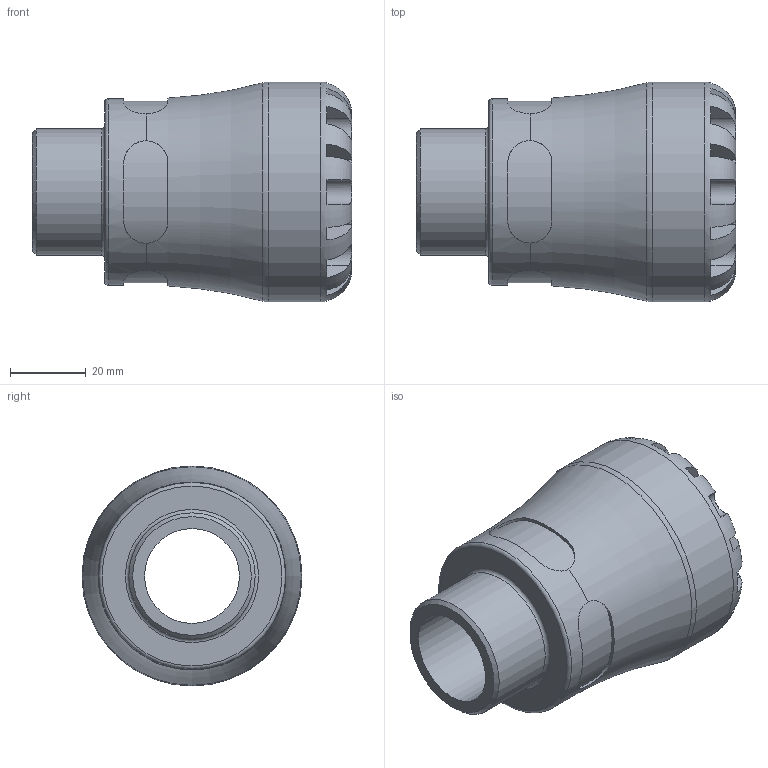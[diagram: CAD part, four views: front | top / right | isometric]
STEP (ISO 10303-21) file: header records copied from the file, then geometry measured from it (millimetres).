
FILE_DESCRIPTION(/* description */ ('PLASSON MALE ADAPTOR 1''''IPS x 1''''NPT SERIES 1'),/* implementation_level */ '2;1');
FILE_NAME(/* name */ 'C:\Dropbox\KIMPROJECTS-Inventor 2019\99-16-3568-Processing Inch\ASTM S1 2021\1002A\stp\1002A6T010010.stp',/* time_stamp */ '2021-09-02T14:34:27+03:00',/* author */ ('KIM'),/* organization */ (''),/* preprocessor_version */ 'ST-DEVELOPER v17.2',/* originating_system */ 'Autodesk Inventor 2019',/* authorisation */ '');
FILE_SCHEMA (('AUTOMOTIVE_DESIGN { 1 0 10303 214 3 1 1 }'));
Length unit declared in the file: inch
Products named in the file (1): 1002A6T010010
Bounding box: 84.07 x 57.91 x 57.91 mm (x, y, z)
Volume: 96634.4 mm3; surface area: 25173.7 mm2
Topology: 1 solids, 1 shells, 100 faces, 273 edges, 177 vertices
Faces by surface type: plane 60, cylinder 33, torus 5, cone 2
Full cylindrical faces by diameter (mm): 24.975 x1, 33.249 x1, 33.3 x1, 49.225 x1, 57.912 x1
Entity records: 4129 total; most frequent: CARTESIAN_POINT 1511, ORIENTED_EDGE 546, DIRECTION 517, EDGE_CURVE 273, AXIS2_PLACEMENT_3D 215, VERTEX_POINT 177, CIRCLE 114, EDGE_LOOP 104
